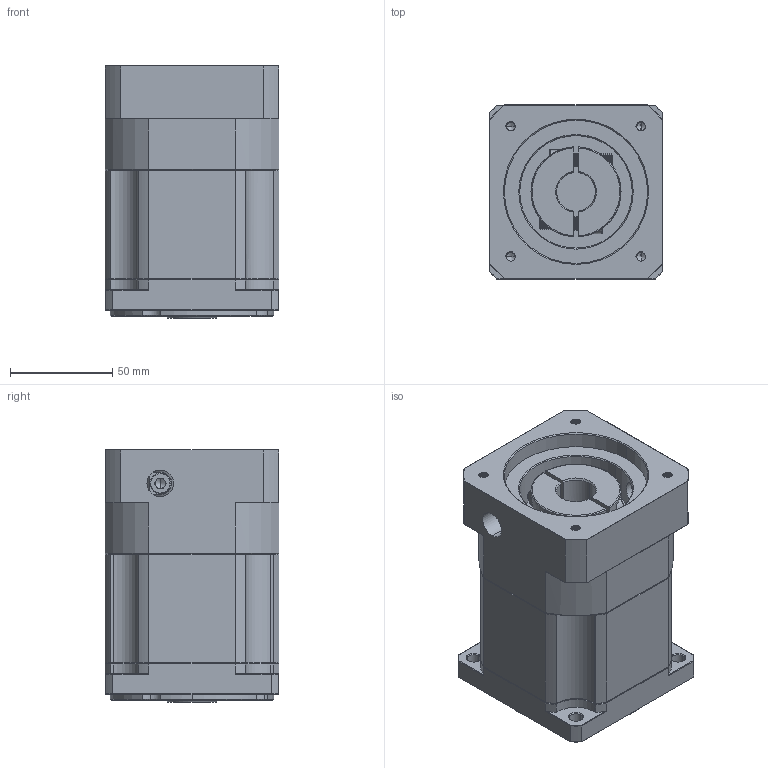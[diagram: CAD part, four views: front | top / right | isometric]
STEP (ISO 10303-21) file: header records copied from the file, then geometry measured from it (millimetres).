
FILE_DESCRIPTION (( 'STEP AP214' ), '1' );
FILE_NAME ('ZB90-K15-L2-19-70-90-M5.STEP', '2022-05-02T15:43:17', ( '' ), ( 'Microsoft' ), 'SwSTEP 2.0', 'SolidWorks 2016', '' );
FILE_SCHEMA (( 'AUTOMOTIVE_DESIGN' ));
Length unit declared in the file: millimetre
Products named in the file (1): ZB90-K15-L2-19-70-90-M5
Bounding box: 85 x 85 x 123.5 mm (x, y, z)
Volume: 712543.5 mm3; surface area: 88849 mm2
Topology: 4 solids, 4 shells, 1851 faces, 4873 edges, 3098 vertices
Faces by surface type: plane 869, cylinder 352, cone 313, bspline 307, torus 10
Entity records: 98208 total; most frequent: CARTESIAN_POINT 34688, ORIENTED_EDGE 9706, DIRECTION 7829, EDGE_CURVE 4853, VERTEX_POINT 3098, LINE 3027, VECTOR 3027, AXIS2_PLACEMENT_3D 2401
